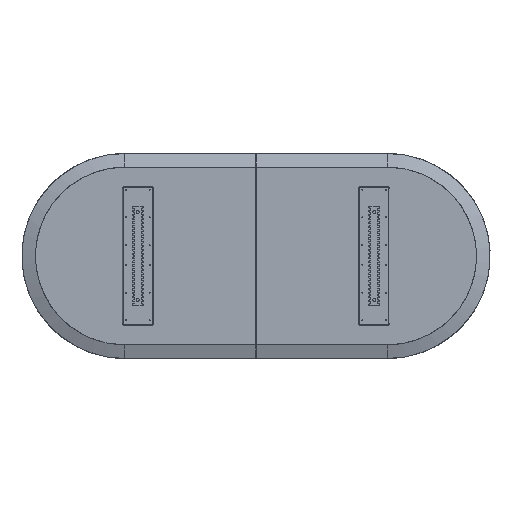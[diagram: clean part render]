
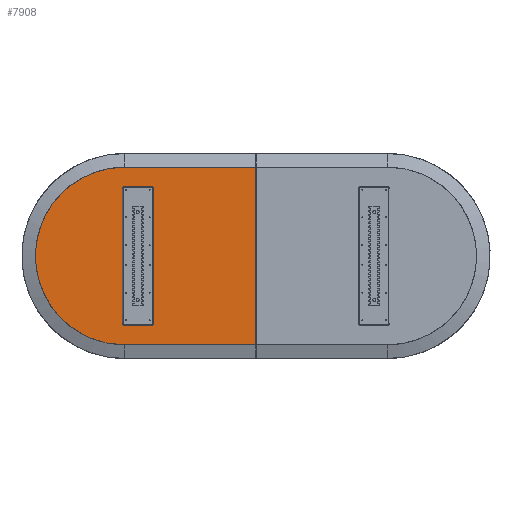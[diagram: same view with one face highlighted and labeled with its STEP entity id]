
A CAD part, front view. The second image highlights one B-rep face of the part: STEP entity #7908.
In plain terms, the highlighted planar face has unit normal (0, 1, 0).
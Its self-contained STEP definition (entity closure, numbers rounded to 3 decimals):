
#76=(
BOUNDED_CURVE()
B_SPLINE_CURVE(2,(#20400,#20401,#20402,#20403,#20404,#20405,#20406,#20407,
#20408,#20409,#20410),.UNSPECIFIED.,.T.,.F.)
B_SPLINE_CURVE_WITH_KNOTS((3,2,2,2,2,3),(0.,1.,2.,3.,4.571,6.142),
 .UNSPECIFIED.)
CURVE()
GEOMETRIC_REPRESENTATION_ITEM()
RATIONAL_B_SPLINE_CURVE((1.,1.,1.,1.,1.,1.,1.,0.707,1.,0.707,
1.))
REPRESENTATION_ITEM('')
);
#7908=ADVANCED_FACE('',(#8536),#19281,.T.);
#8536=FACE_OUTER_BOUND('',#9164,.T.);
#9164=EDGE_LOOP('',(#9855));
#9855=ORIENTED_EDGE('',*,*,#12373,.T.);
#12373=EDGE_CURVE('',#16773,#16773,#76,.T.);
#16773=VERTEX_POINT('',#20399);
#19281=PLANE('',#19640);
#19640=AXIS2_PLACEMENT_3D('',#20398,#19979,$);
#19979=DIRECTION('',(0.,1.,0.));
#20398=CARTESIAN_POINT('',(-411516.644,740556.485,547144.083));
#20399=CARTESIAN_POINT('',(50263.356,740556.485,1457144.083));
#20400=CARTESIAN_POINT('',(50263.356,740556.485,1457144.083));
#20401=CARTESIAN_POINT('',(387763.356,740556.485,1457144.083));
#20402=CARTESIAN_POINT('',(725263.356,740556.485,1457144.083));
#20403=CARTESIAN_POINT('',(725263.356,740556.485,1002144.083));
#20404=CARTESIAN_POINT('',(725263.356,740556.485,547144.083));
#20405=CARTESIAN_POINT('',(387763.356,740556.485,547144.083));
#20406=CARTESIAN_POINT('',(50263.356,740556.485,547144.083));
#20407=CARTESIAN_POINT('',(-404736.644,740556.485,547144.083));
#20408=CARTESIAN_POINT('',(-404736.644,740556.485,1002144.083));
#20409=CARTESIAN_POINT('',(-404736.644,740556.485,1457144.083));
#20410=CARTESIAN_POINT('',(50263.356,740556.485,1457144.083));
